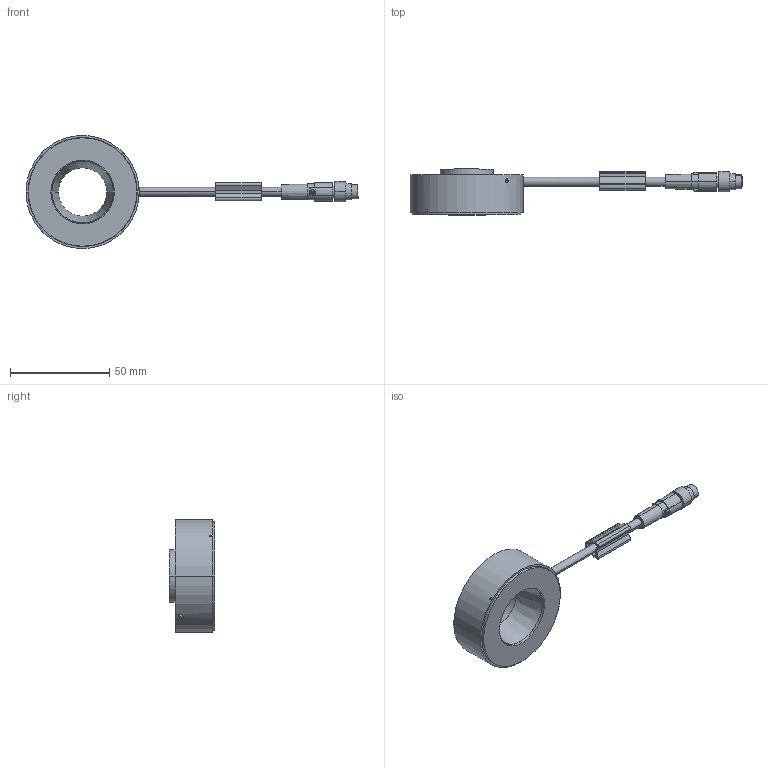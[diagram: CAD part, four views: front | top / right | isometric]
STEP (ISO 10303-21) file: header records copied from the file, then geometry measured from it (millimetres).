
FILE_DESCRIPTION(('STEP AP214'),'1');
FILE_NAME('Rondo-S-Kundenmodell Pigtail.stp','2021-01-21T15:52:59',(' '),(' '),'Spatial InterOp 3D',' ',' ');
FILE_SCHEMA(('AUTOMOTIVE_DESIGN { 1 0 10303 214 1 1 1 1 }'));
Length unit declared in the file: metre
Products named in the file (1): Volumenkörper
Bounding box: 167.19 x 23.1 x 57 mm (x, y, z)
Volume: 21151.4 mm3; surface area: 21836.6 mm2
Topology: 1 solids, 1 shells, 199 faces, 526 edges, 348 vertices
Faces by surface type: cylinder 103, plane 54, bspline 21, cone 12, torus 8, extrusion 1
Entity records: 8471 total; most frequent: CARTESIAN_POINT 2234, DIRECTION 1077, ORIENTED_EDGE 1052, EDGE_CURVE 526, AXIS2_PLACEMENT_3D 428, VERTEX_POINT 348, EDGE_LOOP 234, CIRCLE 230
